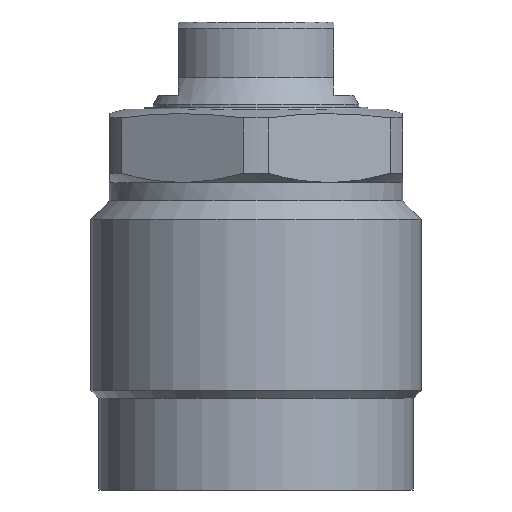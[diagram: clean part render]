
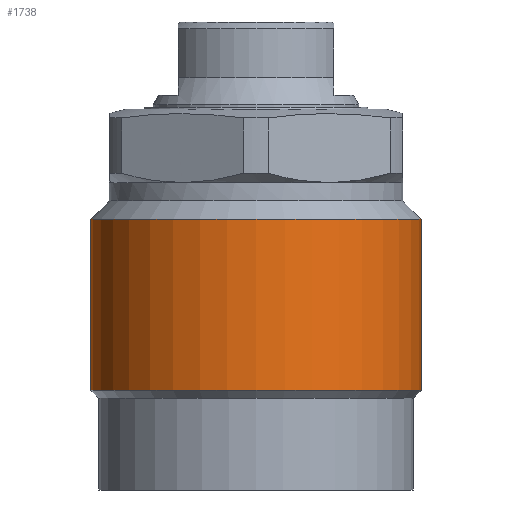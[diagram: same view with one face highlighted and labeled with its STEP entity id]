
A CAD part, front view. The second image highlights one B-rep face of the part: STEP entity #1738.
In plain terms, the highlighted cylindrical face has radius 18 mm (diameter 36 mm), a partial arc.
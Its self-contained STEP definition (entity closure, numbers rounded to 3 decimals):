
#1675=CARTESIAN_POINT('',(-18.,0.0,-30.65));
#1676=VERTEX_POINT('',#1675);
#1684=CARTESIAN_POINT('',(18.,0.0,-30.65));
#1685=VERTEX_POINT('',#1684);
#1692=CARTESIAN_POINT('',(-0.0,0.0,-30.65));
#1693=DIRECTION('',(0.0,0.0,1.0));
#1694=DIRECTION('',(1.0,0.0,0.0));
#1695=AXIS2_PLACEMENT_3D('',#1692,#1693,#1694);
#1696=CIRCLE('',#1695,18.);
#1697=EDGE_CURVE('no 2538',#1676,#1685,#1696,.T.);
#1707=CARTESIAN_POINT('',(-18.,0.0,-12.));
#1708=VERTEX_POINT('',#1707);
#1709=CARTESIAN_POINT('',(-18.,0.0,-30.65));
#1710=DIRECTION('',(0.0,-0.0,1.0));
#1711=VECTOR('',#1710,1.0);
#1712=LINE('',#1709,#1711);
#1713=EDGE_CURVE('no 2548',#1676,#1708,#1712,.T.);
#1714=ORIENTED_EDGE('',*,*,#1713,.F.);
#1715=ORIENTED_EDGE('',*,*,#1697,.T.);
#1716=CARTESIAN_POINT('',(18.,0.0,-12.));
#1717=VERTEX_POINT('',#1716);
#1718=CARTESIAN_POINT('',(18.,0.0,-30.65));
#1719=DIRECTION('',(0.0,0.0,1.0));
#1720=VECTOR('',#1719,1.0);
#1721=LINE('',#1718,#1720);
#1722=EDGE_CURVE('no 2556',#1685,#1717,#1721,.T.);
#1723=ORIENTED_EDGE('',*,*,#1722,.T.);
#1724=CARTESIAN_POINT('',(-0.0,0.0,-12.));
#1725=DIRECTION('',(0.0,0.0,1.0));
#1726=DIRECTION('',(1.0,0.0,0.0));
#1727=AXIS2_PLACEMENT_3D('',#1724,#1725,#1726);
#1728=CIRCLE('',#1727,18.);
#1729=EDGE_CURVE('no 2560',#1708,#1717,#1728,.T.);
#1730=ORIENTED_EDGE('',*,*,#1729,.F.);
#1731=EDGE_LOOP('',(#1714,#1715,#1723,#1730));
#1732=FACE_OUTER_BOUND('',#1731,.T.);
#1733=CARTESIAN_POINT('',(-0.0,0.0,4.451));
#1734=DIRECTION('',(0.0,0.0,1.0));
#1735=DIRECTION('',(0.0,1.0,0.0));
#1736=AXIS2_PLACEMENT_3D('',#1733,#1734,#1735);
#1737=CYLINDRICAL_SURFACE('',#1736,18.);
#1738=ADVANCED_FACE('no 2541',(#1732),#1737,.T.);
